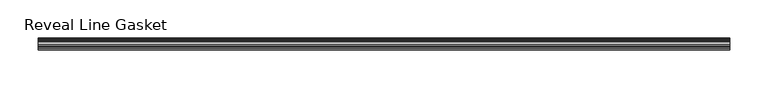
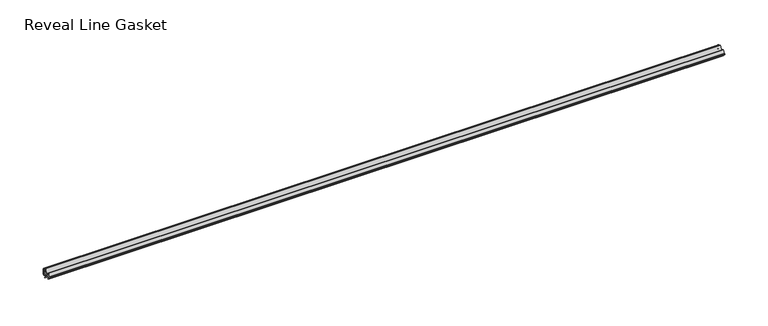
"""IFC4 building model written with IfcOpenShell, lengths in millimetres: proxy geometry, Accessories-Teknion-FHGR-AI_Healthcare-Reveal_Line_Gasket(Horizontal)-R2022 : Reveal Line Gasket."""

from ifc_helpers import new_model, si_unit, point, frame, frame_2d, origin, place, context, project, spatial, polyline, circle_curve, trimmed, segment, composite_curve, outline, extrude, source, transform, mapped, element, save


def reveal_line_gasket_16e8c7bf(model_context):
    return source(origin(), model_context, "Body", "SweptSolid", [
        extrude(outline(composite_curve([segment(polyline([(7.6326998, 1603.2), (7.6326998, 1597.2), (7.4091917, 1596.2445073), (6.8813059, 1595.3115316)]), True, "CONTINUOUS"), segment(trimmed(circle_curve(frame_2d((6.5243141, 1595.5135207)), 0.4101739), [point((6.8813059, 1595.3115316))], [point((6.1246704, 1595.6058653))], False, "CARTESIAN"), True, "CONTINUOUS"), segment(polyline([(6.1246704, 1595.6058653), (6.3626997, 1597.3020914), (6.3626997, 1599.3345473)]), True, "CONTINUOUS"), segment(trimmed(circle_curve(frame_2d((5.6959605, 1598.9180742)), 0.786124), [point((6.3626997, 1599.3345473))], [point((5.0926996, 1599.422125))], True, "CARTESIAN"), True, "CONTINUOUS"), segment(polyline([(5.0926996, 1599.422125), (0.7492996, 1599.422125), (3.7293824, 1594.2604705)]), True, "CONTINUOUS"), segment(trimmed(circle_curve(frame_2d((3.3132479, 1594.1950239)), 0.4212495), [point((3.7293824, 1594.2604705))], [point((3.0485022, 1593.8673642))], False, "CARTESIAN"), True, "CONTINUOUS"), segment(polyline([(3.0485022, 1593.8673642), (-0.5742594, 1599.422125), (-4.8262978, 1599.422125), (-3.1660374, 1596.5464703)]), True, "CONTINUOUS"), segment(trimmed(circle_curve(frame_2d((-3.5978728, 1596.4881145)), 0.4357605), [point((-3.1660374, 1596.5464703))], [point((-3.864328, 1596.1433119))], False, "CARTESIAN"), True, "CONTINUOUS"), segment(polyline([(-3.864328, 1596.1433119), (-6.1944059, 1599.422125), (-7.6326998, 1599.422125), (-7.6326998, 1600.977875), (-6.1944059, 1600.977875), (-3.864328, 1604.2566881)]), True, "CONTINUOUS"), segment(trimmed(circle_curve(frame_2d((-3.5978728, 1603.9118855)), 0.4357605), [point((-3.864328, 1604.2566881))], [point((-3.1660374, 1603.8535297))], False, "CARTESIAN"), True, "CONTINUOUS"), segment(polyline([(-3.1660374, 1603.8535297), (-4.8262978, 1600.977875), (-0.5742594, 1600.977875), (3.0485022, 1606.5326358)]), True, "CONTINUOUS"), segment(trimmed(circle_curve(frame_2d((3.3132479, 1606.2049761)), 0.4212495), [point((3.0485022, 1606.5326358))], [point((3.7293824, 1606.1395295))], False, "CARTESIAN"), True, "CONTINUOUS"), segment(polyline([(3.7293824, 1606.1395295), (0.7492996, 1600.977875), (5.0926996, 1600.977875)]), True, "CONTINUOUS"), segment(trimmed(circle_curve(frame_2d((5.6959605, 1601.4819258)), 0.786124), [point((5.0926996, 1600.977875))], [point((6.3626997, 1601.0654527))], True, "CARTESIAN"), True, "CONTINUOUS"), segment(polyline([(6.3626997, 1601.0654527), (6.3626997, 1603.0979086), (6.1246704, 1604.7941347)]), True, "CONTINUOUS"), segment(trimmed(circle_curve(frame_2d((6.5243141, 1604.8864793)), 0.4101739), [point((6.1246704, 1604.7941347))], [point((6.8813059, 1605.0884684))], False, "CARTESIAN"), True, "CONTINUOUS"), segment(polyline([(6.8813059, 1605.0884684), (7.4091917, 1604.1554927), (7.6326998, 1603.2)]), True, "CONTINUOUS")], self_intersect=False)), frame((-450.5079114, 0.0, 0.0), z_axis=(1.0, 0.0, 0.0), x_axis=(0.0, 1.0, 0.0)), (0.0, 0.0, 1.0), 901.0158229),
    ])


if __name__ == "__main__":
    model = new_model("IFC4")
    model_context = context("Model", 3, world=origin())
    ifc_project = project(units=[si_unit("LENGTHUNIT", "METRE", prefix="MILLI")], contexts=[model_context])
    site = spatial("IfcSite", under=ifc_project)
    building = spatial("IfcBuilding", under=site)
    placement = place(None, origin())
    reveal_line_gasket_shape = reveal_line_gasket_16e8c7bf(model_context)
    element("IfcBuildingElementProxy", 1, Name="Accessories-Teknion-FHGR-AI_Healthcare-Reveal_Line_Gasket(Horizontal)-R2022 : Reveal Line Gasket", ObjectType="Accessories-Teknion-FHGR-AI_Healthcare-Reveal_Line_Gasket(Horizontal)-R2022 : Reveal Line Gasket", at=placement, inside=building, context=model_context, shape_type="MappedRepresentation", body=[
        mapped(reveal_line_gasket_shape, transform((0.0, 0.0, 0.0), x_axis=(1.0, 0.0, 0.0), y_axis=(0.0, 1.0, 0.0), z_axis=(0.0, 0.0, 1.0))),
    ])
    save(model, "model.ifc")
